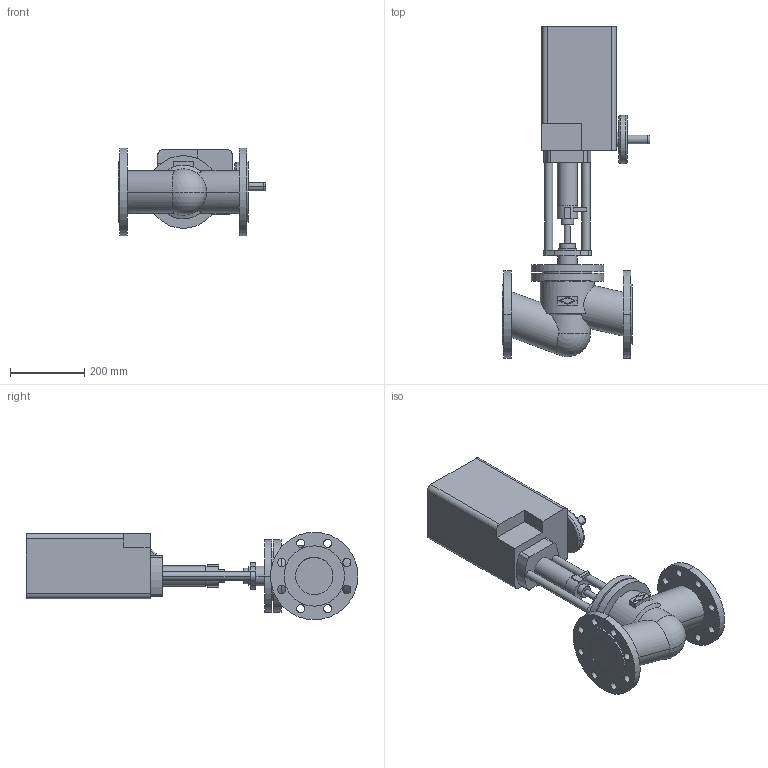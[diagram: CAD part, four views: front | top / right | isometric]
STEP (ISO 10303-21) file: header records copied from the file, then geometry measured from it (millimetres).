
FILE_DESCRIPTION(('OneSpaceDesigner STEP Export'),'2;1');
FILE_NAME('c000001192.stp','2005-01-05T12:52:03',(''),(''),'OneSpace Designer STEP processor (Jan. 2003) for AP203(Solid Model)','OneSpace Designer 12.01D 09-Jul-2004 (C) CoCreate Software GmbH','');
FILE_SCHEMA(('CONFIG_CONTROL_DESIGN'));
Length unit declared in the file: millimetre
Products named in the file (1): 1
Bounding box: 396.6 x 892 x 235 mm (x, y, z)
Volume: 20488812.1 mm3; surface area: 883225.5 mm2
Topology: 1 solids, 1 shells, 177 faces, 445 edges, 295 vertices
Faces by surface type: cylinder 96, plane 71, torus 6, cone 2, sphere 2
Entity records: 5141 total; most frequent: CARTESIAN_POINT 1083, ORIENTED_EDGE 886, DIRECTION 734, EDGE_CURVE 443, VERTEX_POINT 295, AXIS2_PLACEMENT_3D 263, EDGE_LOOP 240, VECTOR 208
